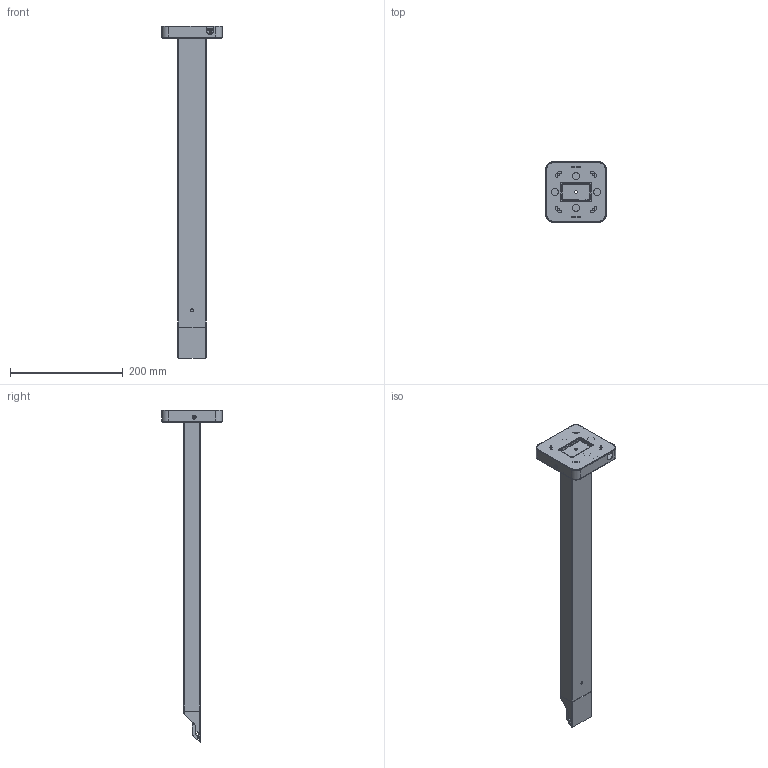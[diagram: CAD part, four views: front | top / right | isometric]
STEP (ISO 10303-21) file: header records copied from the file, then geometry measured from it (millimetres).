
FILE_DESCRIPTION (( 'STEP AP203' ), '1' );
FILE_NAME ('WALL ARM 24IN.STEP', '2023-05-25T19:35:24', ( '' ), ( '' ), 'SwSTEP 2.0', 'SolidWorks 2022', '' );
FILE_SCHEMA (( 'CONFIG_CONTROL_DESIGN' ));
Length unit declared in the file: millimetre
Products named in the file (19): GSK-000109-00; CVR-000839-00; GSK-000107-00; SCW-000539-00_SCW-000539-00; WALL ARM 24IN; HLD-000105-XX_HDL-000105-03; BAS-000024-00; PLA-000078-00; MCP-000396-00; ASY-006795-00; BKT-000519-00; SCW-000538-00_SCW-000538-00; ASY-006788-XX_ASY-006788-4Y (24IN); BKT-000511-00; ASY-006791-00; SCW-000533-00; GSK-000106-00; PLA-000089-00; NUT-000074-00_NUT-000074-00
Assembly tree (32 placements, depth 3):
  WALL ARM 24IN
    ASY-006788-XX_ASY-006788-4Y (24IN)
      BKT-000511-00
      HLD-000105-XX_HDL-000105-03
      PLA-000089-00  x4
    MCP-000396-00
    ASY-006795-00
      PLA-000078-00
      GSK-000107-00
    SCW-000539-00_SCW-000539-00  x4
    ASY-006791-00
      BAS-000024-00
      SCW-000533-00  x4
      BKT-000519-00  x2
    CVR-000839-00
    NUT-000074-00_NUT-000074-00  x4
    GSK-000106-00
    SCW-000538-00_SCW-000538-00  x2
    GSK-000109-00
Bounding box: 107.5 x 107.5 x 589.3 mm (x, y, z)
Volume: 245997 mm3; surface area: 288663.8 mm2
Topology: 29 solids, 37 shells, 1449 faces, 3730 edges, 2361 vertices
Faces by surface type: cylinder 586, plane 405, cone 232, bspline 156, torus 70
Entity records: 37661 total; most frequent: CARTESIAN_POINT 15927, ORIENTED_EDGE 4129, DIRECTION 4024, EDGE_CURVE 2070, AXIS2_PLACEMENT_3D 1514, VERTEX_POINT 1325, LINE 996, VECTOR 996
